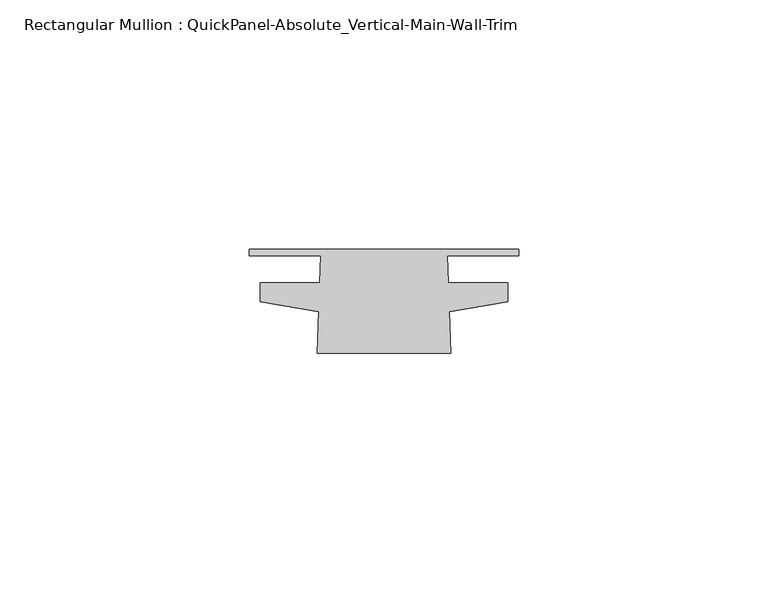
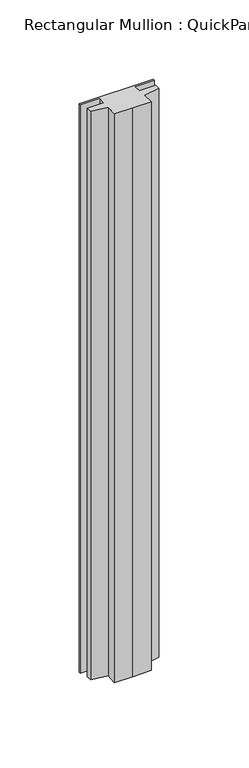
"""IFC4 building model written with IfcOpenShell, lengths in millimetres: member geometry, Rectangular Mullion : QuickPanel-Absolute_Vertical-Main-Wall-Trim."""

from ifc_helpers import new_model, si_unit, frame, origin, place, context, project, spatial, polyline, outline, extrude, source, transform, mapped, element, save


def rectangular_mullion_quickpanel_absolute_vertical_main_wall_ff86f56e(model_context):
    return source(origin(), model_context, "Body", "SweptSolid", [
        extrude(outline(polyline([(0.0, -8.6293878), (-13.4106833, -8.6293878), (-13.1217462, -0.3553138), (-24.8306239, 1.6519631), (-24.8306239, 5.4833303), (-12.9178563, 5.4833303), (-12.7283398, 10.9103727), (-26.9910864, 10.9103727), (-26.9910864, 12.1803727), (26.9910864, 12.1803727), (26.9910864, 10.9103727), (12.7283398, 10.9103727), (12.9178563, 5.4833303), (24.8306239, 5.4833303), (24.8306239, 1.6519631), (13.1217462, -0.3553138), (13.4106833, -8.6293878), (0.0, -8.6293878)])), frame((0.0, 0.0, -438.2868283), z_axis=(0.0, 0.0, 1.0), x_axis=(1.0, 0.0, 0.0)), (0.0, 0.0, 1.0), 438.2868283),
    ])


if __name__ == "__main__":
    model = new_model("IFC4")
    model_context = context("Model", 3, world=origin())
    ifc_project = project(units=[si_unit("LENGTHUNIT", "METRE", prefix="MILLI")], contexts=[model_context])
    site = spatial("IfcSite", under=ifc_project)
    building = spatial("IfcBuilding", under=site)
    placement = place(None, origin())
    rectangular_mullion_quickpanel_absolute_vertical_main_wall_shape = rectangular_mullion_quickpanel_absolute_vertical_main_wall_ff86f56e(model_context)
    element("IfcMember", 1, ObjectType="Rectangular Mullion : QuickPanel-Absolute_Vertical-Main-Wall-Trim", at=placement, inside=building, context=model_context, shape_type="MappedRepresentation", body=[
        mapped(rectangular_mullion_quickpanel_absolute_vertical_main_wall_shape, transform((0.0, 0.0, 0.0), x_axis=(1.0, 0.0, 0.0), y_axis=(0.0, 1.0, 0.0), z_axis=(0.0, 0.0, 1.0))),
    ])
    save(model, "model.ifc")
